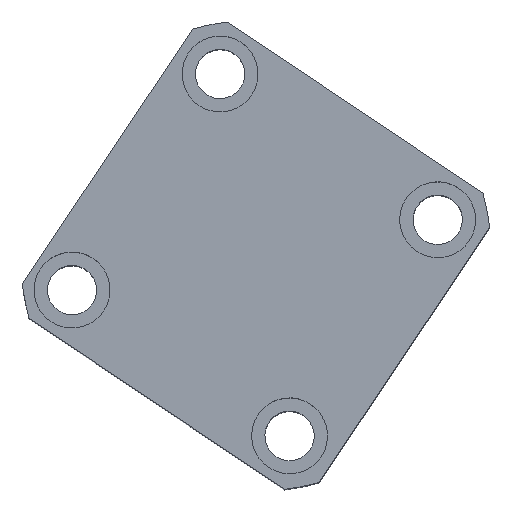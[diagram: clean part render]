
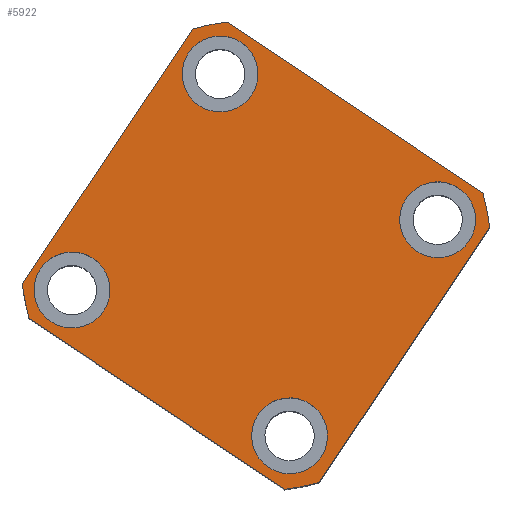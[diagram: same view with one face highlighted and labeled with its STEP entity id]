
A CAD part, top view. The second image highlights one B-rep face of the part: STEP entity #5922.
In plain terms, the highlighted planar face has unit normal (0, 0, 1) as drawn and (0, 0, -1) by its records, which use the part's own axes.
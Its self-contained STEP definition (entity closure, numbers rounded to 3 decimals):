
#6 = DIRECTION ( 'NONE',  ( 0., 0., -1. ) ) ;
#235 = DIRECTION ( 'NONE',  ( 0., 0., -1. ) ) ;
#281 = DIRECTION ( 'NONE',  ( 0., 0., 1. ) ) ;
#318 = ORIENTED_EDGE ( 'NONE', *, *, #534, .F. ) ;
#343 = CARTESIAN_POINT ( 'NONE',  ( -44.5, 34.5, 0. ) ) ;
#534 = EDGE_CURVE ( 'NONE', #22346, #6649, #10502, .T. ) ;
#792 = VECTOR ( 'NONE', #7782, 1000. ) ;
#859 = VERTEX_POINT ( 'NONE', #15652 ) ;
#945 = DIRECTION ( 'NONE',  ( 0., -1., 0. ) ) ;
#953 = VERTEX_POINT ( 'NONE', #5524 ) ;
#968 = DIRECTION ( 'NONE',  ( 1., 0., 0. ) ) ;
#1191 = VERTEX_POINT ( 'NONE', #2532 ) ;
#1371 = LINE ( 'NONE', #15967, #5477 ) ;
#1613 = FACE_BOUND ( 'NONE', #8074, .T. ) ;
#1785 = CARTESIAN_POINT ( 'NONE',  ( 35.23, -34.5, 0. ) ) ;
#1818 = DIRECTION ( 'NONE',  ( 0., 0., -1. ) ) ;
#1893 = CARTESIAN_POINT ( 'NONE',  ( 34.5, 34.5, 0. ) ) ;
#2063 = ORIENTED_EDGE ( 'NONE', *, *, #18178, .F. ) ;
#2124 = DIRECTION ( 'NONE',  ( 0., 0., -1. ) ) ;
#2468 = AXIS2_PLACEMENT_3D ( 'NONE', #13873, #3418, #15581 ) ;
#2532 = CARTESIAN_POINT ( 'NONE',  ( -40.435, -47., 0. ) ) ;
#2543 = ORIENTED_EDGE ( 'NONE', *, *, #5592, .F. ) ;
#2691 = CARTESIAN_POINT ( 'NONE',  ( 35.23, -34.5, 0. ) ) ;
#2901 = EDGE_CURVE ( 'NONE', #6649, #22346, #3567, .T. ) ;
#3163 = EDGE_LOOP ( 'NONE', ( #318, #6211 ) ) ;
#3263 = EDGE_CURVE ( 'NONE', #1191, #16136, #1371, .T. ) ;
#3418 = DIRECTION ( 'NONE',  ( 0., 0., -1. ) ) ;
#3554 = DIRECTION ( 'NONE',  ( -1., 0., 0. ) ) ;
#3567 = CIRCLE ( 'NONE', #22319, 10. ) ;
#3721 = CIRCLE ( 'NONE', #2468, 10. ) ;
#4453 = DIRECTION ( 'NONE',  ( -1., 0., 0. ) ) ;
#4544 = CIRCLE ( 'NONE', #10072, 10. ) ;
#4582 = CARTESIAN_POINT ( 'NONE',  ( 40.435, 47., 0. ) ) ;
#4933 = DIRECTION ( 'NONE',  ( -1., 0., 0. ) ) ;
#4940 = DIRECTION ( 'NONE',  ( 0., 0., 1. ) ) ;
#5052 = CARTESIAN_POINT ( 'NONE',  ( -24.5, 34.5, 0. ) ) ;
#5193 = AXIS2_PLACEMENT_3D ( 'NONE', #10794, #17791, #7413 ) ;
#5436 = ORIENTED_EDGE ( 'NONE', *, *, #15591, .F. ) ;
#5477 = VECTOR ( 'NONE', #11452, 1000. ) ;
#5515 = LINE ( 'NONE', #20433, #14261 ) ;
#5524 = CARTESIAN_POINT ( 'NONE',  ( -47., 40.435, 0. ) ) ;
#5592 = EDGE_CURVE ( 'NONE', #11576, #19724, #12569, .T. ) ;
#5689 = PLANE ( 'NONE',  #5193 ) ;
#5791 = EDGE_CURVE ( 'NONE', #11687, #12160, #6823, .T. ) ;
#5884 = CARTESIAN_POINT ( 'NONE',  ( 44.5, 34.5, 0. ) ) ;
#5922 = ADVANCED_FACE ( 'NONE', ( #19506, #1613, #6286, #15005, #10367 ), #5689, .F. ) ;
#6190 = EDGE_LOOP ( 'NONE', ( #19649, #2543 ) ) ;
#6211 = ORIENTED_EDGE ( 'NONE', *, *, #2901, .F. ) ;
#6286 = FACE_BOUND ( 'NONE', #16782, .T. ) ;
#6305 = VECTOR ( 'NONE', #945, 1000. ) ;
#6649 = VERTEX_POINT ( 'NONE', #5884 ) ;
#6693 = CARTESIAN_POINT ( 'NONE',  ( 25.23, -34.5, 0. ) ) ;
#6739 = AXIS2_PLACEMENT_3D ( 'NONE', #12607, #2124, #14357 ) ;
#6823 = CIRCLE ( 'NONE', #20685, 10. ) ;
#6841 = LINE ( 'NONE', #19905, #6305 ) ;
#7124 = CARTESIAN_POINT ( 'NONE',  ( 40.435, -47., 0. ) ) ;
#7413 = DIRECTION ( 'NONE',  ( 1., 0., 0. ) ) ;
#7782 = DIRECTION ( 'NONE',  ( 0., 1., 0. ) ) ;
#7841 = AXIS2_PLACEMENT_3D ( 'NONE', #17354, #17110, #21837 ) ;
#7968 = CARTESIAN_POINT ( 'NONE',  ( 0., 0., 0. ) ) ;
#8074 = EDGE_LOOP ( 'NONE', ( #16432, #11862 ) ) ;
#8095 = ORIENTED_EDGE ( 'NONE', *, *, #3263, .F. ) ;
#8539 = ORIENTED_EDGE ( 'NONE', *, *, #19108, .F. ) ;
#8710 = AXIS2_PLACEMENT_3D ( 'NONE', #10493, #6, #12257 ) ;
#8947 = VERTEX_POINT ( 'NONE', #18816 ) ;
#9165 = ORIENTED_EDGE ( 'NONE', *, *, #10402, .F. ) ;
#9743 = DIRECTION ( 'NONE',  ( 1., 0., 0. ) ) ;
#10072 = AXIS2_PLACEMENT_3D ( 'NONE', #2691, #14909, #4453 ) ;
#10144 = CIRCLE ( 'NONE', #8710, 10. ) ;
#10164 = ORIENTED_EDGE ( 'NONE', *, *, #21640, .F. ) ;
#10283 = ORIENTED_EDGE ( 'NONE', *, *, #20303, .F. ) ;
#10367 = FACE_OUTER_BOUND ( 'NONE', #21875, .T. ) ;
#10402 = EDGE_CURVE ( 'NONE', #16516, #12957, #18641, .T. ) ;
#10493 = CARTESIAN_POINT ( 'NONE',  ( -34.5, 34.5, 0. ) ) ;
#10502 = CIRCLE ( 'NONE', #7841, 10. ) ;
#10722 = CARTESIAN_POINT ( 'NONE',  ( -34.5, 34.5, 0. ) ) ;
#10759 = CARTESIAN_POINT ( 'NONE',  ( 0., 0., 0. ) ) ;
#10794 = CARTESIAN_POINT ( 'NONE',  ( 0., 0., 0. ) ) ;
#11311 = EDGE_CURVE ( 'NONE', #19724, #11576, #4544, .T. ) ;
#11330 = CARTESIAN_POINT ( 'NONE',  ( -47., -40.435, 0. ) ) ;
#11445 = DIRECTION ( 'NONE',  ( 0., 0., 1. ) ) ;
#11452 = DIRECTION ( 'NONE',  ( 1., 0., 0. ) ) ;
#11576 = VERTEX_POINT ( 'NONE', #13546 ) ;
#11687 = VERTEX_POINT ( 'NONE', #5052 ) ;
#11862 = ORIENTED_EDGE ( 'NONE', *, *, #14219, .F. ) ;
#11938 = ORIENTED_EDGE ( 'NONE', *, *, #22481, .F. ) ;
#12160 = VERTEX_POINT ( 'NONE', #343 ) ;
#12257 = DIRECTION ( 'NONE',  ( -1., 0., 0. ) ) ;
#12491 = DIRECTION ( 'NONE',  ( -1., 0., 0. ) ) ;
#12530 = DIRECTION ( 'NONE',  ( 1., 0., 0. ) ) ;
#12569 = CIRCLE ( 'NONE', #14991, 10. ) ;
#12607 = CARTESIAN_POINT ( 'NONE',  ( -33.77, -34.5, 0. ) ) ;
#12616 = CARTESIAN_POINT ( 'NONE',  ( 47., 40.435, 0. ) ) ;
#12957 = VERTEX_POINT ( 'NONE', #4582 ) ;
#13375 = EDGE_CURVE ( 'NONE', #19362, #859, #3721, .T. ) ;
#13546 = CARTESIAN_POINT ( 'NONE',  ( 45.23, -34.5, 0. ) ) ;
#13699 = AXIS2_PLACEMENT_3D ( 'NONE', #21718, #11445, #968 ) ;
#13873 = CARTESIAN_POINT ( 'NONE',  ( -33.77, -34.5, 0. ) ) ;
#14004 = CARTESIAN_POINT ( 'NONE',  ( -40.435, 47., 0. ) ) ;
#14006 = DIRECTION ( 'NONE',  ( 0., 0., -1. ) ) ;
#14219 = EDGE_CURVE ( 'NONE', #859, #19362, #17819, .T. ) ;
#14261 = VECTOR ( 'NONE', #4933, 1000. ) ;
#14357 = DIRECTION ( 'NONE',  ( -1., 0., 0. ) ) ;
#14673 = CARTESIAN_POINT ( 'NONE',  ( 24.5, 34.5, 0. ) ) ;
#14734 = LINE ( 'NONE', #21762, #792 ) ;
#14909 = DIRECTION ( 'NONE',  ( 0., 0., -1. ) ) ;
#14991 = AXIS2_PLACEMENT_3D ( 'NONE', #1785, #14006, #3554 ) ;
#15005 = FACE_BOUND ( 'NONE', #3163, .T. ) ;
#15366 = CARTESIAN_POINT ( 'NONE',  ( 0., 0., 0. ) ) ;
#15581 = DIRECTION ( 'NONE',  ( -1., 0., 0. ) ) ;
#15591 = EDGE_CURVE ( 'NONE', #19627, #1191, #16950, .T. ) ;
#15652 = CARTESIAN_POINT ( 'NONE',  ( -23.77, -34.5, 0. ) ) ;
#15967 = CARTESIAN_POINT ( 'NONE',  ( -47., -47., 0. ) ) ;
#16063 = VERTEX_POINT ( 'NONE', #14004 ) ;
#16136 = VERTEX_POINT ( 'NONE', #7124 ) ;
#16424 = ORIENTED_EDGE ( 'NONE', *, *, #17858, .F. ) ;
#16432 = ORIENTED_EDGE ( 'NONE', *, *, #13375, .F. ) ;
#16516 = VERTEX_POINT ( 'NONE', #12616 ) ;
#16570 = AXIS2_PLACEMENT_3D ( 'NONE', #10759, #281, #12530 ) ;
#16649 = CIRCLE ( 'NONE', #16570, 62. ) ;
#16782 = EDGE_LOOP ( 'NONE', ( #8539, #18839 ) ) ;
#16950 = CIRCLE ( 'NONE', #13699, 62. ) ;
#17074 = DIRECTION ( 'NONE',  ( 1., 0., 0. ) ) ;
#17110 = DIRECTION ( 'NONE',  ( 0., 0., -1. ) ) ;
#17354 = CARTESIAN_POINT ( 'NONE',  ( 34.5, 34.5, 0. ) ) ;
#17453 = DIRECTION ( 'NONE',  ( -1., 0., 0. ) ) ;
#17791 = DIRECTION ( 'NONE',  ( 0., 0., 1. ) ) ;
#17819 = CIRCLE ( 'NONE', #6739, 10. ) ;
#17858 = EDGE_CURVE ( 'NONE', #12957, #16063, #5515, .T. ) ;
#17938 = CARTESIAN_POINT ( 'NONE',  ( -43.77, -34.5, 0. ) ) ;
#18178 = EDGE_CURVE ( 'NONE', #16063, #953, #16649, .T. ) ;
#18641 = CIRCLE ( 'NONE', #20065, 62. ) ;
#18816 = CARTESIAN_POINT ( 'NONE',  ( 47., -40.435, 0. ) ) ;
#18839 = ORIENTED_EDGE ( 'NONE', *, *, #5791, .F. ) ;
#19108 = EDGE_CURVE ( 'NONE', #12160, #11687, #10144, .T. ) ;
#19362 = VERTEX_POINT ( 'NONE', #17938 ) ;
#19506 = FACE_BOUND ( 'NONE', #6190, .T. ) ;
#19627 = VERTEX_POINT ( 'NONE', #11330 ) ;
#19649 = ORIENTED_EDGE ( 'NONE', *, *, #11311, .F. ) ;
#19724 = VERTEX_POINT ( 'NONE', #6693 ) ;
#19905 = CARTESIAN_POINT ( 'NONE',  ( -47., 47., 0. ) ) ;
#20065 = AXIS2_PLACEMENT_3D ( 'NONE', #7968, #20067, #9743 ) ;
#20067 = DIRECTION ( 'NONE',  ( 0., 0., 1. ) ) ;
#20303 = EDGE_CURVE ( 'NONE', #8947, #16516, #14734, .T. ) ;
#20433 = CARTESIAN_POINT ( 'NONE',  ( -47., 47., 0. ) ) ;
#20685 = AXIS2_PLACEMENT_3D ( 'NONE', #10722, #235, #12491 ) ;
#20857 = CIRCLE ( 'NONE', #21184, 62. ) ;
#21184 = AXIS2_PLACEMENT_3D ( 'NONE', #15366, #4940, #17074 ) ;
#21640 = EDGE_CURVE ( 'NONE', #953, #19627, #6841, .T. ) ;
#21718 = CARTESIAN_POINT ( 'NONE',  ( 0., 0., 0. ) ) ;
#21762 = CARTESIAN_POINT ( 'NONE',  ( 47., 47., 0. ) ) ;
#21837 = DIRECTION ( 'NONE',  ( -1., 0., 0. ) ) ;
#21875 = EDGE_LOOP ( 'NONE', ( #9165, #10283, #11938, #8095, #5436, #10164, #2063, #16424 ) ) ;
#22319 = AXIS2_PLACEMENT_3D ( 'NONE', #1893, #1818, #17453 ) ;
#22346 = VERTEX_POINT ( 'NONE', #14673 ) ;
#22481 = EDGE_CURVE ( 'NONE', #16136, #8947, #20857, .T. ) ;
